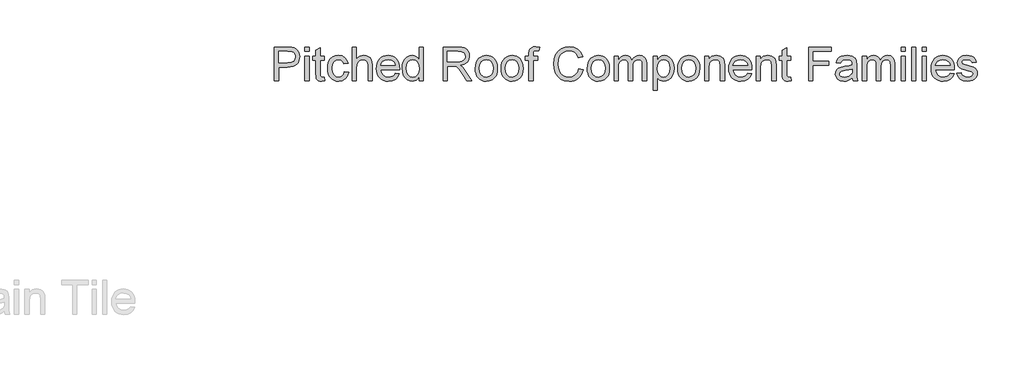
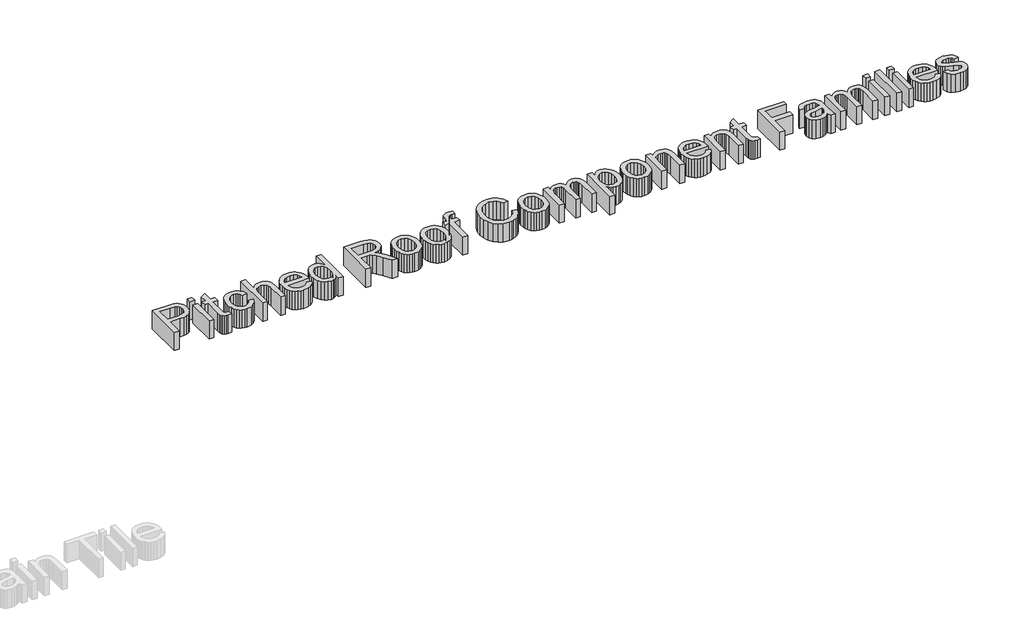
# One storey, part 3 of 3: 1 proxy.
"""IFC4 building model written with IfcOpenShell, lengths in millimetres."""

import ifcopenshell
import ifcopenshell.guid

model = None  # the IFC model being written
_history = None  # IfcOwnerHistory: only IFC2X3 demands one
_inside = {}  # id of a spatial element -> (the spatial element, [elements in it])
_under = {}  # id of a project, library or spatial element -> (it, [spatial elements below it])
_declared = {}  # id of a project -> (the project, [libraries it declares])
_typed = {}  # id of a type object -> (the type object, [elements of that type])
_made_of = {}  # id of a material, layer set ... -> (it, [elements and type objects made of it])


def new_model(schema):
    """Start an empty IFC model of exactly this schema.

    Asked for "IFC4X3", IfcOpenShell would pick the latest addendum, in which some entities
    have other attributes; the version numbers below select the first issue.
    IFC2X3 requires an IfcOwnerHistory on every rooted entity: one is made here for all.
    """
    global model, _history
    if schema == "IFC4X3":
        model = ifcopenshell.file(schema_version=(4, 3, 0, 0))
    else:
        model = ifcopenshell.file(schema=schema)
    _inside.clear()
    _under.clear()
    _declared.clear()
    _typed.clear()
    _made_of.clear()
    _history = None
    if model.schema == "IFC2X3":
        org = make("IfcOrganization", Name="unknown")
        user = make(
            "IfcPersonAndOrganization",
            ThePerson=make("IfcPerson", FamilyName="unknown"),
            TheOrganization=org,
        )
        app = make(
            "IfcApplication",
            ApplicationDeveloper=org,
            Version="unknown",
            ApplicationFullName="unknown",
            ApplicationIdentifier="unknown",
        )
        _history = make(
            "IfcOwnerHistory",
            OwningUser=user,
            OwningApplication=app,
            ChangeAction="ADDED",
            CreationDate=0,
        )
    return model


def make(cls, **values):
    """One entity of the class cls with the attributes given. An attribute that is None is left unset."""
    return model.create_entity(
        cls, **{name: value for name, value in values.items() if value is not None}
    )


def rooted(cls, **values):
    """An entity with a GlobalId (a new one), such as an element, a storey or a relation."""
    return make(cls, GlobalId=ifcopenshell.guid.new(), OwnerHistory=_history, **values)


def si_unit(unit_type, name, prefix=None):
    """IfcSIUnit, for example si_unit("LENGTHUNIT", "METRE", prefix="MILLI")."""
    return make("IfcSIUnit", UnitType=unit_type, Prefix=prefix, Name=name)


def assignment(units):
    """IfcUnitAssignment: the units of a project."""
    return None if units is None else make("IfcUnitAssignment", Units=units)


def point(xyz):
    """IfcCartesianPoint."""
    return None if xyz is None else make("IfcCartesianPoint", Coordinates=xyz)


def direction(xyz):
    """IfcDirection."""
    return None if xyz is None else make("IfcDirection", DirectionRatios=xyz)


def frame(location, z_axis=None, x_axis=None):
    """IfcAxis2Placement3D, a coordinate frame: its origin and axes. An axis left out is left unset."""
    return make(
        "IfcAxis2Placement3D",
        Location=point(location),
        Axis=direction(z_axis),
        RefDirection=direction(x_axis),
    )


def origin():
    """The frame at (0, 0, 0) with its axes left unset."""
    return frame((0.0, 0.0, 0.0))


def place(relative_to, where):
    """IfcLocalPlacement: puts the frame where relative to a parent placement (None: the world)."""
    return make(
        "IfcLocalPlacement", PlacementRelTo=relative_to, RelativePlacement=where
    )


def context(
    kind, dimensions, precision=None, world=None, true_north=None, identifier=None
):
    """IfcGeometricRepresentationContext, for example the 3D "Model" context."""
    return make(
        "IfcGeometricRepresentationContext",
        ContextIdentifier=identifier,
        ContextType=kind,
        CoordinateSpaceDimension=dimensions,
        Precision=precision,
        WorldCoordinateSystem=world,
        TrueNorth=true_north,
    )


def project(units=None, contexts=None):
    """IfcProject with its units and contexts."""
    return rooted(
        "IfcProject",
        Name="project",
        RepresentationContexts=contexts,
        UnitsInContext=assignment(units),
    )


def spatial(cls, under=None, at=None, **own):
    """A site, building, storey or space (cls), placed at a placement, below another one or the project."""
    s = rooted(cls, ObjectPlacement=at, **own)
    if under is not None:
        _under.setdefault(under.id(), (under, []))[1].append(s)
    return s


def polyline(points):
    """IfcPolyline through the points."""
    return make("IfcPolyline", Points=[point(p) for p in points])


def outline(outer, holes=None, kind="AREA"):
    """IfcArbitraryClosedProfileDef: a profile drawn as a closed curve; with holes, ...WithVoids."""
    if holes is None:
        return make("IfcArbitraryClosedProfileDef", ProfileType=kind, OuterCurve=outer)
    return make(
        "IfcArbitraryProfileDefWithVoids",
        ProfileType=kind,
        OuterCurve=outer,
        InnerCurves=holes,
    )


def extrude(swept, where, along, depth):
    """IfcExtrudedAreaSolid: the profile swept, set in the frame where, extruded along a direction by depth."""
    return make(
        "IfcExtrudedAreaSolid",
        SweptArea=swept,
        Position=where,
        ExtrudedDirection=direction(along),
        Depth=depth,
    )


def shape(context_of_items, identifier, shape_type, items):
    """IfcShapeRepresentation: the items that make up one representation, for example the "Body"."""
    return make(
        "IfcShapeRepresentation",
        ContextOfItems=context_of_items,
        RepresentationIdentifier=identifier,
        RepresentationType=shape_type,
        Items=items,
    )


def made_of(thing, what):
    """Note that an element or type object is made of a material, layer set ...; save() writes the relation."""
    if what is not None:
        _made_of.setdefault(what.id(), (what, []))[1].append(thing)
    return thing


def element(
    cls,
    number,
    at=None,
    inside=None,
    cuts=None,
    type_object=None,
    material=None,
    context=None,
    identifier="Body",
    shape_type=None,
    held_by="IfcProductDefinitionShape",
    body=None,
    shapes=None,
    **own,
):
    """One element of the class cls, such as IfcWall. Its Tag is "e" and its number.

    at: its placement. inside: the storey or other place that contains it. cuts: it is an
    opening in that element (IfcRelVoidsElement). A single representation is given by context,
    identifier, shape_type and body (its items); several are given by shapes. held_by: the class
    of the entity that holds the representations. save() writes the other relations.
    """
    e = rooted(cls, Tag="e%d" % number, ObjectPlacement=at, **own)
    if body is not None:
        shapes = [shape(context, identifier, shape_type, body)]
    if shapes is not None:
        e.Representation = make(held_by, Representations=shapes)
    if inside is not None:
        _inside.setdefault(inside.id(), (inside, []))[1].append(e)
    if cuts is not None:
        rooted(
            "IfcRelVoidsElement", RelatingBuildingElement=cuts, RelatedOpeningElement=e
        )
    if type_object is not None:
        _typed.setdefault(type_object.id(), (type_object, []))[1].append(e)
    return made_of(e, material)


def aggregate(whole, parts):
    """IfcRelAggregates: a whole, such as a stair, and the parts it consists of."""
    return rooted("IfcRelAggregates", RelatingObject=whole, RelatedObjects=parts)


def save(model, path):
    """Write the relations noted so far, then the file.

    IfcRelAggregates (storeys below a building ...), IfcRelContainedInSpatialStructure (elements
    in a storey), IfcRelDefinesByType, IfcRelAssociatesMaterial and IfcRelDeclares: one each for
    every whole, place, type object, material and project.
    """
    for whole, parts in _under.values():
        aggregate(whole, parts)
    for where, things in _inside.values():
        rooted(
            "IfcRelContainedInSpatialStructure",
            RelatedElements=things,
            RelatingStructure=where,
        )
    for kind, things in _typed.values():
        rooted("IfcRelDefinesByType", RelatedObjects=things, RelatingType=kind)
    for what, things in _made_of.values():
        rooted("IfcRelAssociatesMaterial", RelatedObjects=things, RelatingMaterial=what)
    for by, libraries in _declared.values():
        rooted("IfcRelDeclares", RelatingContext=by, RelatedDefinitions=libraries)
    model.write(path)


model = new_model("IFC4")

# Units and contexts
model_context = context("Model", 3, world=origin())
ifc_project = project(units=[si_unit("LENGTHUNIT", "METRE", prefix="MILLI")], contexts=[model_context])

# Site, building, storey
site = spatial("IfcSite", under=ifc_project)
building = spatial("IfcBuilding", under=site)
storey = spatial("IfcBuildingStorey", under=building, Name="Marley Clay Plain Tile", Elevation=3000.0)

# Proxy
placement = place(None, origin())
element("IfcBuildingElementProxy", 1, Name="600mm Arial", ObjectType="600mm Arial", at=placement, inside=storey, context=model_context, shape_type="SweptSolid", body=[
    extrude(outline(polyline([(-10896.0304047, 7604.3149333), (-10896.0304047, 7899.6995487), (-10786.5592509, 7899.6995487), (-10742.4246355, 7896.8870487), (-10722.7461499, 7891.6316401), (-10706.5472316, 7883.0769526), (-10693.5033614, 7870.835366), (-10683.2900201, 7854.5192603), (-10676.6914624, 7835.273467), (-10674.4919432, 7814.242818), (-10680.432448, 7779.429116), (-10687.858079, 7764.1992483), (-10698.2539624, 7750.4207026), (-10712.5260477, 7738.9994285), (-10731.5802845, 7730.8413757), (-10755.4166727, 7725.9465439), (-10784.0352124, 7724.3149333), (-10859.1073278, 7724.3149333), (-10859.1073278, 7604.3149333), (-10896.0304047, 7604.3149333)]), holes=[polyline([(-10859.1073278, 7761.2380103), (-10781.8717509, 7761.2380103), (-10749.1313663, 7764.6274333), (-10727.4967509, 7774.7957026), (-10715.4354528, 7791.1118083), (-10711.4150201, 7812.944741), (-10713.7858134, 7829.5312795), (-10720.8981932, 7843.5216641), (-10731.8687461, 7854.0505103), (-10745.8140586, 7860.2524333), (-10782.7371355, 7862.7764718), (-10859.1073278, 7862.7764718), (-10859.1073278, 7761.2380103)])]), frame((0.0, 0.0, 3000.0), z_axis=(0.0, 0.0, 1.0), x_axis=(1.0, 0.0, 0.0)), (0.0, 0.0, 1.0), 150.0),
    extrude(outline(polyline([(-10628.338097, 7604.3149333), (-10628.338097, 7821.2380103), (-10591.4150201, 7821.2380103), (-10591.4150201, 7604.3149333), (-10628.338097, 7604.3149333)])), frame((0.0, 0.0, 3000.0), z_axis=(0.0, 0.0, 1.0), x_axis=(1.0, 0.0, 0.0)), (0.0, 0.0, 1.0), 150.0),
    extrude(outline(polyline([(-10628.338097, 7862.7764718), (-10628.338097, 7899.6995487), (-10591.4150201, 7899.6995487), (-10591.4150201, 7862.7764718), (-10628.338097, 7862.7764718)])), frame((0.0, 0.0, 3000.0), z_axis=(0.0, 0.0, 1.0), x_axis=(1.0, 0.0, 0.0)), (0.0, 0.0, 1.0), 150.0),
    extrude(outline(polyline([(-10457.5688663, 7635.1082026), (-10452.9534816, 7603.2332026), (-10480.5736739, 7599.6995487), (-10498.2960297, 7601.2320007), (-10511.5111739, 7605.8293564), (-10520.8501163, 7612.914693), (-10526.9438663, 7621.9110872), (-10530.2972316, 7637.3618083), (-10531.4150201, 7663.8101257), (-10531.4150201, 7784.3149333), (-10559.1073278, 7784.3149333), (-10559.1073278, 7821.2380103), (-10531.4150201, 7821.2380103), (-10531.4150201, 7873.9543564), (-10494.4919432, 7895.6610872), (-10494.4919432, 7821.2380103), (-10457.5688663, 7821.2380103), (-10457.5688663, 7784.3149333), (-10494.4919432, 7784.3149333), (-10494.4919432, 7664.8918564), (-10492.5448278, 7645.8533949), (-10486.2347316, 7639.1106064), (-10473.650597, 7636.6226257), (-10457.5688663, 7635.1082026)])), frame((0.0, 0.0, 3000.0), z_axis=(0.0, 0.0, 1.0), x_axis=(1.0, 0.0, 0.0)), (0.0, 0.0, 1.0), 150.0),
    extrude(outline(polyline([(-10282.1842509, 7682.7764718), (-10245.2611739, 7678.1610872), (-10255.5556451, 7645.3215439), (-10274.900597, 7620.5048372), (-10301.4751163, 7604.9008708), (-10333.4582893, 7599.6995487), (-10354.1666727, 7601.5137014), (-10372.7341307, 7606.9561593), (-10389.1606631, 7616.0269225), (-10403.4462701, 7628.725991), (-10415.0095213, 7644.8144826), (-10423.2689864, 7664.0535151), (-10428.2246655, 7686.4430884), (-10429.8765586, 7711.9832026), (-10427.0550441, 7744.8407747), (-10418.5905009, 7773.3173372), (-10404.3477124, 7796.3131305), (-10384.1914624, 7812.7283949), (-10360.0778807, 7822.5721449), (-10333.963097, 7825.8533949), (-10302.7641788, 7821.3461833), (-10277.8212701, 7807.8245487), (-10259.9276403, 7786.0096449), (-10249.8765586, 7756.6226257), (-10286.7996355, 7752.007241), (-10293.4973518, 7768.1160151), (-10303.9270393, 7779.663491), (-10317.5117749, 7786.6136112), (-10333.6746355, 7788.930318), (-10357.5358134, 7784.3690199), (-10376.4751163, 7770.6851257), (-10388.8338903, 7747.1394526), (-10392.9534816, 7712.992818), (-10388.9240345, 7678.3864478), (-10376.8356932, 7654.7596449), (-10358.2389384, 7641.1568805), (-10334.6842509, 7636.6226257), (-10315.5646595, 7639.4531545), (-10299.8885778, 7647.944741), (-10288.4853326, 7662.3137314), (-10282.1842509, 7682.7764718)])), frame((0.0, 0.0, 3000.0), z_axis=(0.0, 0.0, 1.0), x_axis=(1.0, 0.0, 0.0)), (0.0, 0.0, 1.0), 150.0),
    extrude(outline(polyline([(-10212.9534816, 7604.3149333), (-10212.9534816, 7899.6995487), (-10176.0304047, 7899.6995487), (-10176.0304047, 7791.0937795), (-10162.4682052, 7806.3011112), (-10147.2383374, 7817.163491), (-10130.3408013, 7823.6809189), (-10111.775597, 7825.8533949), (-10089.4739143, 7823.4826016), (-10070.3092509, 7816.3702218), (-10055.2191066, 7805.0751497), (-10045.1409816, 7790.1562795), (-10039.4618951, 7769.6574814), (-10037.5688663, 7741.6226257), (-10037.5688663, 7604.3149333), (-10074.4919432, 7604.3149333), (-10074.4919432, 7737.8005103), (-10077.4306451, 7760.913491), (-10086.2467509, 7776.742818), (-10100.4534816, 7785.883443), (-10119.5640586, 7788.930318), (-10135.1680249, 7786.8750295), (-10149.8164624, 7780.7091641), (-10161.9498759, 7771.0276737), (-10170.0087701, 7758.4255103), (-10174.5249961, 7741.6767122), (-10176.0304047, 7719.555318), (-10176.0304047, 7604.3149333), (-10212.9534816, 7604.3149333)])), frame((0.0, 0.0, 3000.0), z_axis=(0.0, 0.0, 1.0), x_axis=(1.0, 0.0, 0.0)), (0.0, 0.0, 1.0), 150.0),
    extrude(outline(polyline([(-9834.9246355, 7668.930318), (-9798.7227124, 7664.3149333), (-9811.7665826, 7637.0372891), (-9832.5808855, 7616.6466641), (-9860.6968711, 7603.9363276), (-9895.6457893, 7599.6995487), (-9918.5559456, 7601.527223), (-9938.9691066, 7607.0102458), (-9956.8852725, 7616.1486172), (-9972.3044432, 7628.9423372), (-9984.7037821, 7645.035336), (-9993.5604528, 7664.0715439), (-9998.8744552, 7686.050961), (-10000.6457893, 7710.9735872), (-9998.8564263, 7736.7413156), (-9993.4883374, 7759.4531545), (-9984.5415225, 7779.109104), (-9972.0159816, 7795.7091641), (-9956.6373759, 7808.8972651), (-9939.1313663, 7818.3173372), (-9919.4979528, 7823.9693805), (-9897.7371355, 7825.8533949), (-9876.6771896, 7823.9738877), (-9857.6319672, 7818.335366), (-9840.6014684, 7808.93783), (-9825.5856932, 7795.7812795), (-9813.3283314, 7779.2172771), (-9804.573073, 7759.5973853), (-9799.3199179, 7736.921604), (-9797.5688663, 7711.1899333), (-9797.7852124, 7701.2380103), (-9963.7227124, 7701.2380103), (-9957.3314864, 7673.5997891), (-9942.4847316, 7653.2812795), (-9921.057448, 7640.7872891), (-9894.9246355, 7636.6226257), (-9875.2731932, 7638.5517122), (-9858.7227124, 7644.3389718), (-9845.2731932, 7654.3449814), (-9834.9246355, 7668.930318)]), holes=[polyline([(-9963.7227124, 7738.1610872), (-9834.4919432, 7738.1610872), (-9839.4859336, 7757.6682987), (-9849.275597, 7771.6226257), (-9870.8020393, 7784.6033949), (-9897.8813663, 7788.930318), (-9922.7701884, 7785.4777939), (-9943.3501163, 7775.1202218), (-9957.6560057, 7758.9753901), (-9963.7227124, 7738.1610872)])]), frame((0.0, 0.0, 3000.0), z_axis=(0.0, 0.0, 1.0), x_axis=(1.0, 0.0, 0.0)), (0.0, 0.0, 1.0), 150.0),
    extrude(outline(polyline([(-9626.7996355, 7604.3149333), (-9626.7996355, 7639.1466641), (-9637.846811, 7621.8885511), (-9651.228722, 7609.5613276), (-9666.9453687, 7602.1649934), (-9684.9967509, 7599.6995487), (-9708.8669432, 7603.2692603), (-9730.7179047, 7613.9783949), (-9749.2155009, 7631.0787555), (-9763.025597, 7653.8221449), (-9771.6253566, 7681.289092), (-9774.4919432, 7712.5601257), (-9771.8507172, 7743.4435391), (-9763.9270393, 7771.3341641), (-9750.7299239, 7794.6454622), (-9732.2683855, 7811.7908949), (-9709.9396595, 7822.3377699), (-9685.1409816, 7825.8533949), (-9667.0760778, 7823.3383708), (-9651.1025201, 7815.7932987), (-9637.5628566, 7804.2277939), (-9626.7996355, 7789.6514718), (-9626.7996355, 7899.6995487), (-9589.8765586, 7899.6995487), (-9589.8765586, 7604.3149333), (-9626.7996355, 7604.3149333)]), holes=[polyline([(-9737.5688663, 7712.7043564), (-9733.4042028, 7679.3059189), (-9720.9102124, 7655.5529141), (-9702.7551643, 7641.3551978), (-9681.6073278, 7636.6226257), (-9660.4685057, 7641.1388516), (-9642.7731932, 7654.6875295), (-9630.7930249, 7677.5210632), (-9626.7996355, 7709.8918564), (-9630.8651403, 7745.2824814), (-9643.0616547, 7769.819741), (-9661.2076884, 7784.1526737), (-9683.1217509, 7788.930318), (-9704.4859336, 7784.3419766), (-9721.9919432, 7770.5769526), (-9733.6746355, 7746.9321208), (-9737.5688663, 7712.7043564)])]), frame((0.0, 0.0, 3000.0), z_axis=(0.0, 0.0, 1.0), x_axis=(1.0, 0.0, 0.0)), (0.0, 0.0, 1.0), 150.0),
    extrude(outline(polyline([(-9414.4919432, 7604.3149333), (-9414.4919432, 7899.6995487), (-9287.2082893, 7899.6995487), (-9252.9985538, 7897.7073612), (-9228.1097316, 7891.7307987), (-9209.9186259, 7880.6971449), (-9195.8020393, 7863.5336833), (-9186.7425441, 7842.2506305), (-9183.7227124, 7818.8582026), (-9188.7257172, 7789.7596449), (-9203.7347316, 7765.6370487), (-9215.1041727, 7755.8068204), (-9229.2004768, 7747.9507507), (-9265.5736739, 7738.1610872), (-9244.588097, 7722.367818), (-9214.6602124, 7684.3630103), (-9165.4054047, 7604.3149333), (-9208.3140586, 7604.3149333), (-9246.7515586, 7665.5408949), (-9274.5159816, 7706.069741), (-9294.0231932, 7725.2163757), (-9311.5832893, 7732.2476257), (-9333.0015586, 7733.5457026), (-9377.5688663, 7733.5457026), (-9377.5688663, 7604.3149333), (-9414.4919432, 7604.3149333)]), holes=[polyline([(-9377.5688663, 7770.4687795), (-9294.9246355, 7770.4687795), (-9271.1896595, 7771.7758708), (-9252.7731932, 7775.6971449), (-9238.9090105, 7782.4940199), (-9228.8308855, 7792.4279141), (-9222.6920634, 7804.4441401), (-9220.6457893, 7817.4880103), (-9224.5490345, 7835.4988276), (-9236.2587701, 7850.0120487), (-9256.4060057, 7859.585366), (-9285.6217509, 7862.7764718), (-9377.5688663, 7862.7764718), (-9377.5688663, 7770.4687795)])]), frame((0.0, 0.0, 3000.0), z_axis=(0.0, 0.0, 1.0), x_axis=(1.0, 0.0, 0.0)), (0.0, 0.0, 1.0), 150.0),
    extrude(outline(polyline([(-9132.9534816, 7712.7764718), (-9130.9567869, 7740.8699213), (-9124.9667028, 7765.0781545), (-9114.9832292, 7785.4011713), (-9101.0063663, 7801.8389718), (-9086.9348518, 7812.3452819), (-9071.4030009, 7819.8497891), (-9054.4108134, 7824.3524934), (-9035.9582893, 7825.8533949), (-9015.5879468, 7824.0257206), (-8997.1692268, 7818.5426978), (-8980.7021295, 7809.4043264), (-8966.1866547, 7796.6106064), (-8954.3394492, 7780.5942302), (-8945.8771595, 7761.7878901), (-8940.7997857, 7740.191586), (-8939.1073278, 7715.805318), (-8942.1001163, 7678.5036353), (-8951.0784816, 7650.1082026), (-8965.7810057, 7628.8431785), (-8985.9462701, 7612.9327218), (-9009.8975922, 7603.007842), (-9035.9582893, 7599.6995487), (-9056.6261078, 7601.5204622), (-9075.2161018, 7606.9832026), (-9091.7282713, 7616.0877699), (-9106.1626163, 7628.8341641), (-9117.8836199, 7645.0060391), (-9126.2557653, 7664.3870487), (-9131.2790526, 7686.977193), (-9132.9534816, 7712.7764718)]), holes=[polyline([(-9096.0304047, 7712.8485872), (-9091.7575682, 7679.4321208), (-9078.9390586, 7655.6250295), (-9059.6481932, 7641.3732266), (-9035.9582893, 7636.6226257), (-9012.3765586, 7641.4002699), (-8993.1217509, 7655.7332026), (-8980.3032413, 7679.8557987), (-8976.0304047, 7714.0024333), (-8980.3302845, 7746.445342), (-8993.2299239, 7769.9279141), (-9012.5117749, 7784.179717), (-9035.9582893, 7788.930318), (-9059.6481932, 7784.1977458), (-9078.9390586, 7770.0000295), (-9091.7575682, 7746.2470247), (-9096.0304047, 7712.8485872)])]), frame((0.0, 0.0, 3000.0), z_axis=(0.0, 0.0, 1.0), x_axis=(1.0, 0.0, 0.0)), (0.0, 0.0, 1.0), 150.0),
    extrude(outline(polyline([(-8906.7996355, 7712.7764718), (-8904.8029408, 7740.8699213), (-8898.8128566, 7765.0781545), (-8888.8293831, 7785.4011713), (-8874.8525201, 7801.8389718), (-8860.7810057, 7812.3452819), (-8845.2491547, 7819.8497891), (-8828.2569672, 7824.3524934), (-8809.8044432, 7825.8533949), (-8789.4341006, 7824.0257206), (-8771.0153807, 7818.5426978), (-8754.5482833, 7809.4043264), (-8740.0328086, 7796.6106064), (-8728.185603, 7780.5942302), (-8719.7233134, 7761.7878901), (-8714.6459396, 7740.191586), (-8712.9534816, 7715.805318), (-8715.9462701, 7678.5036353), (-8724.9246355, 7650.1082026), (-8739.6271595, 7628.8431785), (-8759.7924239, 7612.9327218), (-8783.7437461, 7603.007842), (-8809.8044432, 7599.6995487), (-8830.4722617, 7601.5204622), (-8849.0622557, 7606.9832026), (-8865.5744251, 7616.0877699), (-8880.0087701, 7628.8341641), (-8891.7297737, 7645.0060391), (-8900.1019191, 7664.3870487), (-8905.1252064, 7686.977193), (-8906.7996355, 7712.7764718)]), holes=[polyline([(-8869.8765586, 7712.8485872), (-8865.603722, 7679.4321208), (-8852.7852124, 7655.6250295), (-8833.494347, 7641.3732266), (-8809.8044432, 7636.6226257), (-8786.2227124, 7641.4002699), (-8766.9679047, 7655.7332026), (-8754.1493951, 7679.8557987), (-8749.8765586, 7714.0024333), (-8754.1764384, 7746.445342), (-8767.0760778, 7769.9279141), (-8786.3579288, 7784.179717), (-8809.8044432, 7788.930318), (-8833.494347, 7784.1977458), (-8852.7852124, 7770.0000295), (-8865.603722, 7746.2470247), (-8869.8765586, 7712.8485872)])]), frame((0.0, 0.0, 3000.0), z_axis=(0.0, 0.0, 1.0), x_axis=(1.0, 0.0, 0.0)), (0.0, 0.0, 1.0), 150.0),
    extrude(outline(polyline([(-8662.1842509, 7604.3149333), (-8662.1842509, 7784.3149333), (-8694.4919432, 7784.3149333), (-8694.4919432, 7821.2380103), (-8662.1842509, 7821.2380103), (-8662.1842509, 7843.0889718), (-8658.2900201, 7873.882241), (-8650.8621355, 7886.1598853), (-8639.3957893, 7895.8774333), (-8623.3501163, 7902.2055583), (-8602.1842509, 7904.3149333), (-8568.5063663, 7900.2764718), (-8573.9150201, 7865.6610872), (-8595.1890586, 7867.3918564), (-8609.2245153, 7865.8594045), (-8618.4462701, 7861.2620487), (-8623.557448, 7852.4820007), (-8625.2611739, 7838.4014718), (-8625.2611739, 7821.2380103), (-8583.7227124, 7821.2380103), (-8583.7227124, 7784.3149333), (-8625.2611739, 7784.3149333), (-8625.2611739, 7604.3149333), (-8662.1842509, 7604.3149333)])), frame((0.0, 0.0, 3000.0), z_axis=(0.0, 0.0, 1.0), x_axis=(1.0, 0.0, 0.0)), (0.0, 0.0, 1.0), 150.0),
    extrude(outline(polyline([(-8223.7227124, 7709.3149333), (-8186.7996355, 7699.7957026), (-8194.1058254, 7676.8337134), (-8203.8368951, 7656.7698612), (-8215.9928446, 7639.6041461), (-8230.5736739, 7625.336568), (-8247.2503566, 7614.120372), (-8265.6938663, 7606.1088035), (-8285.9042028, 7601.3018624), (-8307.8813663, 7599.6995487), (-8350.7088903, 7604.5493083), (-8384.7203086, 7619.0985872), (-8410.7900201, 7642.8425776), (-8429.7924239, 7675.2764718), (-8441.3939864, 7713.4074814), (-8445.2611739, 7754.242818), (-8440.8891788, 7797.3137314), (-8427.7731932, 7834.507241), (-8406.5983134, 7864.6424574), (-8378.0496355, 7886.538491), (-8344.1914624, 7899.8708228), (-8307.088097, 7904.3149333), (-8266.604323, 7898.5637314), (-8248.9923939, 7891.374729), (-8233.1337701, 7881.3101257), (-8219.2898699, 7868.6358468), (-8207.7221114, 7853.617818), (-8191.4150201, 7816.5505103), (-8228.338097, 7807.7524333), (-8241.1385778, 7834.6785151), (-8258.6265586, 7853.149068), (-8281.0183855, 7863.8311593), (-8308.5304047, 7867.3918564), (-8340.2431451, 7863.4435391), (-8366.2948278, 7851.5985872), (-8386.0634576, 7833.100991), (-8398.9270393, 7809.194741), (-8405.9853326, 7782.1695007), (-8408.338097, 7754.3149333), (-8405.5526403, 7720.2043564), (-8397.1962701, 7690.7091641), (-8382.9534816, 7666.9561593), (-8362.5087701, 7650.0721449), (-8337.9985538, 7639.9850055), (-8311.5592509, 7636.6226257), (-8280.7389384, 7641.2019526), (-8255.056847, 7654.9399333), (-8235.666823, 7677.6923372), (-8223.7227124, 7709.3149333)])), frame((0.0, 0.0, 3000.0), z_axis=(0.0, 0.0, 1.0), x_axis=(1.0, 0.0, 0.0)), (0.0, 0.0, 1.0), 150.0),
    extrude(outline(polyline([(-8149.8765586, 7712.7764718), (-8147.8798638, 7740.8699213), (-8141.8897797, 7765.0781545), (-8131.9063062, 7785.4011713), (-8117.9294432, 7801.8389718), (-8103.8579288, 7812.3452819), (-8088.3260778, 7819.8497891), (-8071.3338903, 7824.3524934), (-8052.8813663, 7825.8533949), (-8032.5110237, 7824.0257206), (-8014.0923038, 7818.5426978), (-7997.6252064, 7809.4043264), (-7983.1097316, 7796.6106064), (-7971.2625261, 7780.5942302), (-7962.8002364, 7761.7878901), (-7957.7228626, 7740.191586), (-7956.0304047, 7715.805318), (-7959.0231932, 7678.5036353), (-7968.0015586, 7650.1082026), (-7982.7040826, 7628.8431785), (-8002.869347, 7612.9327218), (-8026.8206691, 7603.007842), (-8052.8813663, 7599.6995487), (-8073.5491848, 7601.5204622), (-8092.1391788, 7606.9832026), (-8108.6513482, 7616.0877699), (-8123.0856932, 7628.8341641), (-8134.8066968, 7645.0060391), (-8143.1788422, 7664.3870487), (-8148.2021295, 7686.977193), (-8149.8765586, 7712.7764718)]), holes=[polyline([(-8112.9534816, 7712.8485872), (-8108.6806451, 7679.4321208), (-8095.8621355, 7655.6250295), (-8076.5712701, 7641.3732266), (-8052.8813663, 7636.6226257), (-8029.2996355, 7641.4002699), (-8010.0448278, 7655.7332026), (-7997.2263182, 7679.8557987), (-7992.9534816, 7714.0024333), (-7997.2533614, 7746.445342), (-8010.1530009, 7769.9279141), (-8029.4348518, 7784.179717), (-8052.8813663, 7788.930318), (-8076.5712701, 7784.1977458), (-8095.8621355, 7770.0000295), (-8108.6806451, 7746.2470247), (-8112.9534816, 7712.8485872)])]), frame((0.0, 0.0, 3000.0), z_axis=(0.0, 0.0, 1.0), x_axis=(1.0, 0.0, 0.0)), (0.0, 0.0, 1.0), 150.0),
    extrude(outline(polyline([(-7914.4919432, 7604.3149333), (-7914.4919432, 7821.2380103), (-7877.5688663, 7821.2380103), (-7877.5688663, 7785.5408949), (-7866.463097, 7801.9381305), (-7852.1842509, 7814.7836833), (-7835.2191066, 7823.085967), (-7816.0544432, 7825.8533949), (-7795.5195874, 7823.0318805), (-7779.0592509, 7814.5673372), (-7766.7635778, 7801.0186593), (-7758.7227124, 7782.944741), (-7745.2641788, 7801.7172771), (-7729.9126163, 7815.1262314), (-7712.6680249, 7823.171604), (-7693.5304047, 7825.8533949), (-7665.7749961, 7821.3912555), (-7645.2491547, 7808.0048372), (-7632.5658614, 7785.3335632), (-7628.338097, 7753.0168564), (-7628.338097, 7604.3149333), (-7665.2611739, 7604.3149333), (-7665.2611739, 7737.1514718), (-7668.6866547, 7767.9807987), (-7673.5003566, 7776.4813997), (-7681.0905009, 7783.1610872), (-7690.8531211, 7787.4880103), (-7702.1842509, 7788.930318), (-7722.1872557, 7785.2344045), (-7738.494347, 7774.1466641), (-7749.338698, 7754.9098853), (-7752.9534816, 7726.7668564), (-7752.9534816, 7604.3149333), (-7789.8765586, 7604.3149333), (-7789.8765586, 7741.2620487), (-7792.0129768, 7762.1394526), (-7798.4222316, 7777.0312795), (-7809.6992749, 7785.9555583), (-7826.4390586, 7788.930318), (-7840.6638182, 7786.9471449), (-7853.7707893, 7780.9976257), (-7864.588097, 7771.225991), (-7871.9438663, 7757.7764718), (-7876.1626163, 7739.116616), (-7877.5688663, 7713.7139718), (-7877.5688663, 7604.3149333), (-7914.4919432, 7604.3149333)])), frame((0.0, 0.0, 3000.0), z_axis=(0.0, 0.0, 1.0), x_axis=(1.0, 0.0, 0.0)), (0.0, 0.0, 1.0), 150.0),
    extrude(outline(polyline([(-7572.9534816, 7521.2380103), (-7572.9534816, 7821.2380103), (-7536.0304047, 7821.2380103), (-7536.0304047, 7785.0360872), (-7523.9871355, 7802.8936593), (-7510.5015586, 7815.649068), (-7494.7804047, 7823.3023132), (-7476.0304047, 7825.8533949), (-7451.0604528, 7822.2836833), (-7429.2275201, 7811.5745487), (-7411.4510778, 7794.3750295), (-7398.650597, 7771.3341641), (-7390.916222, 7744.1286353), (-7388.338097, 7714.4351257), (-7391.2497557, 7682.8576016), (-7399.9847316, 7654.6154141), (-7414.2635778, 7631.1418564), (-7433.806847, 7613.8702218), (-7456.5682653, 7603.242217), (-7480.5015586, 7599.6995487), (-7497.4757172, 7602.070342), (-7512.6289624, 7609.1827218), (-7525.6007172, 7619.9188997), (-7536.0304047, 7633.1610872), (-7536.0304047, 7521.2380103), (-7572.9534816, 7521.2380103)]), holes=[polyline([(-7536.0304047, 7711.0457026), (-7532.0370153, 7677.944741), (-7520.056847, 7654.7957026), (-7502.3795634, 7641.1658949), (-7481.2948278, 7636.6226257), (-7459.8675441, 7641.3281545), (-7441.7395393, 7655.444741), (-7429.3807653, 7679.4411353), (-7425.2611739, 7713.7860872), (-7429.2816066, 7746.7067603), (-7441.3429047, 7770.180318), (-7458.9931451, 7784.242818), (-7479.7804047, 7788.930318), (-7500.6487941, 7783.945342), (-7518.9751163, 7768.9904141), (-7531.7665826, 7744.5342843), (-7536.0304047, 7711.0457026)])]), frame((0.0, 0.0, 3000.0), z_axis=(0.0, 0.0, 1.0), x_axis=(1.0, 0.0, 0.0)), (0.0, 0.0, 1.0), 150.0),
    extrude(outline(polyline([(-7356.0304047, 7712.7764718), (-7354.03371, 7740.8699213), (-7348.0436259, 7765.0781545), (-7338.0601523, 7785.4011713), (-7324.0832893, 7801.8389718), (-7310.0117749, 7812.3452819), (-7294.4799239, 7819.8497891), (-7277.4877364, 7824.3524934), (-7259.0352124, 7825.8533949), (-7238.6648699, 7824.0257206), (-7220.2461499, 7818.5426978), (-7203.7790526, 7809.4043264), (-7189.2635778, 7796.6106064), (-7177.4163723, 7780.5942302), (-7168.9540826, 7761.7878901), (-7163.8767088, 7740.191586), (-7162.1842509, 7715.805318), (-7165.1770393, 7678.5036353), (-7174.1554047, 7650.1082026), (-7188.8579288, 7628.8431785), (-7209.0231932, 7612.9327218), (-7232.9745153, 7603.007842), (-7259.0352124, 7599.6995487), (-7279.7030309, 7601.5204622), (-7298.2930249, 7606.9832026), (-7314.8051944, 7616.0877699), (-7329.2395393, 7628.8341641), (-7340.9605429, 7645.0060391), (-7349.3326884, 7664.3870487), (-7354.3559756, 7686.977193), (-7356.0304047, 7712.7764718)]), holes=[polyline([(-7319.1073278, 7712.8485872), (-7314.8344913, 7679.4321208), (-7302.0159816, 7655.6250295), (-7282.7251163, 7641.3732266), (-7259.0352124, 7636.6226257), (-7235.4534816, 7641.4002699), (-7216.1986739, 7655.7332026), (-7203.3801643, 7679.8557987), (-7199.1073278, 7714.0024333), (-7203.4072076, 7746.445342), (-7216.306847, 7769.9279141), (-7235.588698, 7784.179717), (-7259.0352124, 7788.930318), (-7282.7251163, 7784.1977458), (-7302.0159816, 7770.0000295), (-7314.8344913, 7746.2470247), (-7319.1073278, 7712.8485872)])]), frame((0.0, 0.0, 3000.0), z_axis=(0.0, 0.0, 1.0), x_axis=(1.0, 0.0, 0.0)), (0.0, 0.0, 1.0), 150.0),
    extrude(outline(polyline([(-7120.6457893, 7604.3149333), (-7120.6457893, 7821.2380103), (-7083.7227124, 7821.2380103), (-7083.7227124, 7790.9495487), (-7070.8951884, 7806.2199814), (-7055.4895393, 7817.1274333), (-7037.5057653, 7823.6719045), (-7016.9438663, 7825.8533949), (-6998.7437461, 7824.0955824), (-6982.0760778, 7818.8221449), (-6968.1758374, 7810.6911353), (-6958.2780009, 7800.3606064), (-6947.2082893, 7773.2091641), (-6945.2611739, 7737.5120487), (-6945.2611739, 7604.3149333), (-6982.1842509, 7604.3149333), (-6982.1842509, 7732.5360872), (-6986.4390586, 7765.2043564), (-6992.3254768, 7774.9309189), (-7001.4751163, 7782.475991), (-7013.2028807, 7787.3167362), (-7026.8236739, 7788.930318), (-7048.4492749, 7785.3065199), (-7066.8837701, 7774.4351257), (-7074.2508074, 7765.5604261), (-7079.5129768, 7753.4315199), (-7083.7227124, 7719.4110872), (-7083.7227124, 7604.3149333), (-7120.6457893, 7604.3149333)])), frame((0.0, 0.0, 3000.0), z_axis=(0.0, 0.0, 1.0), x_axis=(1.0, 0.0, 0.0)), (0.0, 0.0, 1.0), 150.0),
    extrude(outline(polyline([(-6742.6169432, 7668.930318), (-6706.4150201, 7664.3149333), (-6719.4588903, 7637.0372891), (-6740.2731932, 7616.6466641), (-6768.3891788, 7603.9363276), (-6803.338097, 7599.6995487), (-6826.2482533, 7601.527223), (-6846.6614143, 7607.0102458), (-6864.5775802, 7616.1486172), (-6879.9967509, 7628.9423372), (-6892.3960898, 7645.035336), (-6901.2527605, 7664.0715439), (-6906.5667629, 7686.050961), (-6908.338097, 7710.9735872), (-6906.548734, 7736.7413156), (-6901.1806451, 7759.4531545), (-6892.2338302, 7779.109104), (-6879.7082893, 7795.7091641), (-6864.3296836, 7808.8972651), (-6846.8236739, 7818.3173372), (-6827.1902605, 7823.9693805), (-6805.4294432, 7825.8533949), (-6784.3694973, 7823.9738877), (-6765.3242749, 7818.335366), (-6748.2937761, 7808.93783), (-6733.2780009, 7795.7812795), (-6721.0206391, 7779.2172771), (-6712.2653807, 7759.5973853), (-6707.0122256, 7736.921604), (-6705.2611739, 7711.1899333), (-6705.4775201, 7701.2380103), (-6871.4150201, 7701.2380103), (-6865.0237941, 7673.5997891), (-6850.1770393, 7653.2812795), (-6828.7497557, 7640.7872891), (-6802.6169432, 7636.6226257), (-6782.9655009, 7638.5517122), (-6766.4150201, 7644.3389718), (-6752.9655009, 7654.3449814), (-6742.6169432, 7668.930318)]), holes=[polyline([(-6871.4150201, 7738.1610872), (-6742.1842509, 7738.1610872), (-6747.1782413, 7757.6682987), (-6756.9679047, 7771.6226257), (-6778.494347, 7784.6033949), (-6805.5736739, 7788.930318), (-6830.4624961, 7785.4777939), (-6851.0424239, 7775.1202218), (-6865.3483134, 7758.9753901), (-6871.4150201, 7738.1610872)])]), frame((0.0, 0.0, 3000.0), z_axis=(0.0, 0.0, 1.0), x_axis=(1.0, 0.0, 0.0)), (0.0, 0.0, 1.0), 150.0),
    extrude(outline(polyline([(-6668.338097, 7604.3149333), (-6668.338097, 7821.2380103), (-6631.4150201, 7821.2380103), (-6631.4150201, 7790.9495487), (-6618.5874961, 7806.2199814), (-6603.181847, 7817.1274333), (-6585.198073, 7823.6719045), (-6564.6361739, 7825.8533949), (-6546.4360538, 7824.0955824), (-6529.7683855, 7818.8221449), (-6515.8681451, 7810.6911353), (-6505.9703086, 7800.3606064), (-6494.900597, 7773.2091641), (-6492.9534816, 7737.5120487), (-6492.9534816, 7604.3149333), (-6529.8765586, 7604.3149333), (-6529.8765586, 7732.5360872), (-6534.1313663, 7765.2043564), (-6540.0177845, 7774.9309189), (-6549.1674239, 7782.475991), (-6560.8951884, 7787.3167362), (-6574.5159816, 7788.930318), (-6596.1415826, 7785.3065199), (-6614.5760778, 7774.4351257), (-6621.9431151, 7765.5604261), (-6627.2052845, 7753.4315199), (-6631.4150201, 7719.4110872), (-6631.4150201, 7604.3149333), (-6668.338097, 7604.3149333)])), frame((0.0, 0.0, 3000.0), z_axis=(0.0, 0.0, 1.0), x_axis=(1.0, 0.0, 0.0)), (0.0, 0.0, 1.0), 150.0),
    extrude(outline(polyline([(-6363.7227124, 7635.1082026), (-6359.1073278, 7603.2332026), (-6386.7275201, 7599.6995487), (-6404.4498759, 7601.2320007), (-6417.6650201, 7605.8293564), (-6427.0039624, 7612.914693), (-6433.0977124, 7621.9110872), (-6436.4510778, 7637.3618083), (-6437.5688663, 7663.8101257), (-6437.5688663, 7784.3149333), (-6465.2611739, 7784.3149333), (-6465.2611739, 7821.2380103), (-6437.5688663, 7821.2380103), (-6437.5688663, 7873.9543564), (-6400.6457893, 7895.6610872), (-6400.6457893, 7821.2380103), (-6363.7227124, 7821.2380103), (-6363.7227124, 7784.3149333), (-6400.6457893, 7784.3149333), (-6400.6457893, 7664.8918564), (-6398.6986739, 7645.8533949), (-6392.3885778, 7639.1106064), (-6379.8044432, 7636.6226257), (-6363.7227124, 7635.1082026)])), frame((0.0, 0.0, 3000.0), z_axis=(0.0, 0.0, 1.0), x_axis=(1.0, 0.0, 0.0)), (0.0, 0.0, 1.0), 150.0),
    extrude(outline(polyline([(-6206.7996355, 7604.3149333), (-6206.7996355, 7899.6995487), (-6008.338097, 7899.6995487), (-6008.338097, 7862.7764718), (-6169.8765586, 7862.7764718), (-6169.8765586, 7775.0841641), (-6031.4150201, 7775.0841641), (-6031.4150201, 7738.1610872), (-6169.8765586, 7738.1610872), (-6169.8765586, 7604.3149333), (-6206.7996355, 7604.3149333)])), frame((0.0, 0.0, 3000.0), z_axis=(0.0, 0.0, 1.0), x_axis=(1.0, 0.0, 0.0)), (0.0, 0.0, 1.0), 150.0),
    extrude(outline(polyline([(-5823.7227124, 7632.007241), (-5841.3639384, 7616.8810391), (-5859.5280009, 7606.9832026), (-5878.6295634, 7601.5204622), (-5899.0832893, 7599.6995487), (-5929.9396595, 7604.0805583), (-5952.7010778, 7617.2235872), (-5966.7365345, 7637.1815199), (-5971.4150201, 7662.007241), (-5969.6481932, 7677.3137314), (-5964.3477124, 7691.2139718), (-5956.1716307, 7703.1130103), (-5945.7780009, 7712.4158949), (-5919.9246355, 7724.5312795), (-5887.9775201, 7730.0841641), (-5850.2251163, 7735.9255103), (-5823.9390586, 7742.7764718), (-5823.7227124, 7750.9976257), (-5826.2647797, 7767.475991), (-5833.8909816, 7778.257241), (-5850.9462701, 7786.2620487), (-5874.7082893, 7788.930318), (-5896.7034816, 7787.1544766), (-5912.0640586, 7781.8269526), (-5922.5388182, 7771.9741882), (-5929.8765586, 7756.6226257), (-5966.7996355, 7761.2380103), (-5960.3903807, 7781.430318), (-5950.8260778, 7797.2957026), (-5937.2142989, 7809.429116), (-5918.6626163, 7818.4255103), (-5895.9733134, 7823.9964237), (-5869.9486739, 7825.8533949), (-5844.9877364, 7824.2127699), (-5825.2010778, 7819.2908949), (-5810.2822076, 7811.8900535), (-5799.9246355, 7802.8125295), (-5793.0556451, 7791.5895728), (-5788.6025201, 7777.7524333), (-5786.7996355, 7745.444741), (-5786.7996355, 7699.507241), (-5784.9246355, 7635.3606064), (-5777.5688663, 7604.3149333), (-5814.4919432, 7604.3149333), (-5823.7227124, 7632.007241)]), holes=[polyline([(-5823.7227124, 7705.8533949), (-5883.2900201, 7694.5312795), (-5915.056847, 7688.5457026), (-5929.4438663, 7678.8101257), (-5934.4919432, 7664.6033949), (-5931.7425441, 7653.6238276), (-5923.494347, 7644.6274333), (-5909.9276403, 7638.6238276), (-5891.2227124, 7636.6226257), (-5871.3909816, 7638.8311593), (-5853.8669432, 7645.4567603), (-5839.6602124, 7655.2193805), (-5829.7804047, 7666.8389718), (-5825.3993951, 7678.8101257), (-5823.9390586, 7695.3966641), (-5823.7227124, 7705.8533949)])]), frame((0.0, 0.0, 3000.0), z_axis=(0.0, 0.0, 1.0), x_axis=(1.0, 0.0, 0.0)), (0.0, 0.0, 1.0), 150.0),
    extrude(outline(polyline([(-5736.0304047, 7604.3149333), (-5736.0304047, 7821.2380103), (-5699.1073278, 7821.2380103), (-5699.1073278, 7785.5408949), (-5688.0015586, 7801.9381305), (-5673.7227124, 7814.7836833), (-5656.7575682, 7823.085967), (-5637.5929047, 7825.8533949), (-5617.0580489, 7823.0318805), (-5600.5977124, 7814.5673372), (-5588.3020393, 7801.0186593), (-5580.2611739, 7782.944741), (-5566.8026403, 7801.7172771), (-5551.4510778, 7815.1262314), (-5534.2064864, 7823.171604), (-5515.0688663, 7825.8533949), (-5487.3134576, 7821.3912555), (-5466.7876163, 7808.0048372), (-5454.104323, 7785.3335632), (-5449.8765586, 7753.0168564), (-5449.8765586, 7604.3149333), (-5486.7996355, 7604.3149333), (-5486.7996355, 7737.1514718), (-5490.2251163, 7767.9807987), (-5495.0388182, 7776.4813997), (-5502.6289624, 7783.1610872), (-5512.3915826, 7787.4880103), (-5523.7227124, 7788.930318), (-5543.7257172, 7785.2344045), (-5560.0328086, 7774.1466641), (-5570.8771595, 7754.9098853), (-5574.4919432, 7726.7668564), (-5574.4919432, 7604.3149333), (-5611.4150201, 7604.3149333), (-5611.4150201, 7741.2620487), (-5613.5514384, 7762.1394526), (-5619.9606932, 7777.0312795), (-5631.2377364, 7785.9555583), (-5647.9775201, 7788.930318), (-5662.2022797, 7786.9471449), (-5675.3092509, 7780.9976257), (-5686.1265586, 7771.225991), (-5693.4823278, 7757.7764718), (-5697.7010778, 7739.116616), (-5699.1073278, 7713.7139718), (-5699.1073278, 7604.3149333), (-5736.0304047, 7604.3149333)])), frame((0.0, 0.0, 3000.0), z_axis=(0.0, 0.0, 1.0), x_axis=(1.0, 0.0, 0.0)), (0.0, 0.0, 1.0), 150.0),
    extrude(outline(polyline([(-5394.4919432, 7604.3149333), (-5394.4919432, 7821.2380103), (-5357.5688663, 7821.2380103), (-5357.5688663, 7604.3149333), (-5394.4919432, 7604.3149333)])), frame((0.0, 0.0, 3000.0), z_axis=(0.0, 0.0, 1.0), x_axis=(1.0, 0.0, 0.0)), (0.0, 0.0, 1.0), 150.0),
    extrude(outline(polyline([(-5394.4919432, 7862.7764718), (-5394.4919432, 7899.6995487), (-5357.5688663, 7899.6995487), (-5357.5688663, 7862.7764718), (-5394.4919432, 7862.7764718)])), frame((0.0, 0.0, 3000.0), z_axis=(0.0, 0.0, 1.0), x_axis=(1.0, 0.0, 0.0)), (0.0, 0.0, 1.0), 150.0),
    extrude(outline(polyline([(-5302.1842509, 7604.3149333), (-5302.1842509, 7899.6995487), (-5265.2611739, 7899.6995487), (-5265.2611739, 7604.3149333), (-5302.1842509, 7604.3149333)])), frame((0.0, 0.0, 3000.0), z_axis=(0.0, 0.0, 1.0), x_axis=(1.0, 0.0, 0.0)), (0.0, 0.0, 1.0), 150.0),
    extrude(outline(polyline([(-5209.8765586, 7604.3149333), (-5209.8765586, 7821.2380103), (-5172.9534816, 7821.2380103), (-5172.9534816, 7604.3149333), (-5209.8765586, 7604.3149333)])), frame((0.0, 0.0, 3000.0), z_axis=(0.0, 0.0, 1.0), x_axis=(1.0, 0.0, 0.0)), (0.0, 0.0, 1.0), 150.0),
    extrude(outline(polyline([(-5209.8765586, 7862.7764718), (-5209.8765586, 7899.6995487), (-5172.9534816, 7899.6995487), (-5172.9534816, 7862.7764718), (-5209.8765586, 7862.7764718)])), frame((0.0, 0.0, 3000.0), z_axis=(0.0, 0.0, 1.0), x_axis=(1.0, 0.0, 0.0)), (0.0, 0.0, 1.0), 150.0),
    extrude(outline(polyline([(-4965.6938663, 7668.930318), (-4929.4919432, 7664.3149333), (-4942.5358134, 7637.0372891), (-4963.3501163, 7616.6466641), (-4991.4661018, 7603.9363276), (-5026.4150201, 7599.6995487), (-5049.3251763, 7601.527223), (-5069.7383374, 7607.0102458), (-5087.6545033, 7616.1486172), (-5103.0736739, 7628.9423372), (-5115.4730129, 7645.035336), (-5124.3296836, 7664.0715439), (-5129.643686, 7686.050961), (-5131.4150201, 7710.9735872), (-5129.6256571, 7736.7413156), (-5124.2575682, 7759.4531545), (-5115.3107533, 7779.109104), (-5102.7852124, 7795.7091641), (-5087.4066066, 7808.8972651), (-5069.900597, 7818.3173372), (-5050.2671836, 7823.9693805), (-5028.5063663, 7825.8533949), (-5007.4464203, 7823.9738877), (-4988.401198, 7818.335366), (-4971.3706992, 7808.93783), (-4956.3549239, 7795.7812795), (-4944.0975622, 7779.2172771), (-4935.3423038, 7759.5973853), (-4930.0891487, 7736.921604), (-4928.338097, 7711.1899333), (-4928.5544432, 7701.2380103), (-5094.4919432, 7701.2380103), (-5088.1007172, 7673.5997891), (-5073.2539624, 7653.2812795), (-5051.8266788, 7640.7872891), (-5025.6938663, 7636.6226257), (-5006.0424239, 7638.5517122), (-4989.4919432, 7644.3389718), (-4976.0424239, 7654.3449814), (-4965.6938663, 7668.930318)]), holes=[polyline([(-5094.4919432, 7738.1610872), (-4965.2611739, 7738.1610872), (-4970.2551643, 7757.6682987), (-4980.0448278, 7771.6226257), (-5001.5712701, 7784.6033949), (-5028.650597, 7788.930318), (-5053.5394191, 7785.4777939), (-5074.119347, 7775.1202218), (-5088.4252364, 7758.9753901), (-5094.4919432, 7738.1610872)])]), frame((0.0, 0.0, 3000.0), z_axis=(0.0, 0.0, 1.0), x_axis=(1.0, 0.0, 0.0)), (0.0, 0.0, 1.0), 150.0),
    extrude(outline(polyline([(-4905.2611739, 7668.930318), (-4868.338097, 7673.5457026), (-4862.5147797, 7657.7524333), (-4851.2467509, 7646.1418564), (-4834.4618951, 7639.0024333), (-4812.088097, 7636.6226257), (-4789.9847316, 7638.804116), (-4774.4438663, 7645.3485872), (-4765.2491547, 7654.8317603), (-4762.1842509, 7665.8293564), (-4765.2671836, 7675.2404141), (-4774.5159816, 7682.4158949), (-4812.5207893, 7692.944741), (-4868.1217509, 7711.0096449), (-4882.1932653, 7720.0871689), (-4892.3885778, 7732.1033949), (-4898.5814864, 7746.2920968), (-4900.6457893, 7761.8870487), (-4898.9871355, 7776.1929382), (-4894.0111739, 7789.399068), (-4886.1686259, 7800.9826016), (-4875.9102124, 7810.4207026), (-4852.4366547, 7821.3461833), (-4820.6698278, 7825.8533949), (-4796.6373759, 7824.0414958), (-4775.7419432, 7818.6057987), (-4758.9390586, 7810.0781545), (-4747.1842509, 7798.9904141), (-4739.3957893, 7784.5222651), (-4734.4919432, 7765.8533949), (-4771.4150201, 7761.2380103), (-4776.0754768, 7772.8576016), (-4785.2972316, 7781.6106064), (-4799.1704288, 7787.1003901), (-4817.7852124, 7788.930318), (-4838.9871355, 7787.1815199), (-4853.1217509, 7781.9351257), (-4861.072472, 7774.3630103), (-4863.7227124, 7765.6370487), (-4859.3236739, 7754.8918564), (-4845.5496355, 7746.742818), (-4813.7467509, 7738.882241), (-4759.5520393, 7721.5024333), (-4745.2371355, 7713.1911353), (-4734.3837701, 7701.8149333), (-4727.541823, 7687.3377699), (-4725.2611739, 7669.7235872), (-4727.9384576, 7651.5144526), (-4735.9703086, 7634.3870487), (-4749.0502364, 7619.6845247), (-4766.8717509, 7608.7500295), (-4788.3981932, 7601.9621689), (-4812.5929047, 7599.6995487), (-4849.822472, 7604.0625295), (-4876.9919432, 7617.1514718), (-4895.1289624, 7638.8221449), (-4905.2611739, 7668.930318)])), frame((0.0, 0.0, 3000.0), z_axis=(0.0, 0.0, 1.0), x_axis=(1.0, 0.0, 0.0)), (0.0, 0.0, 1.0), 150.0),
])

save(model, "model.ifc")
